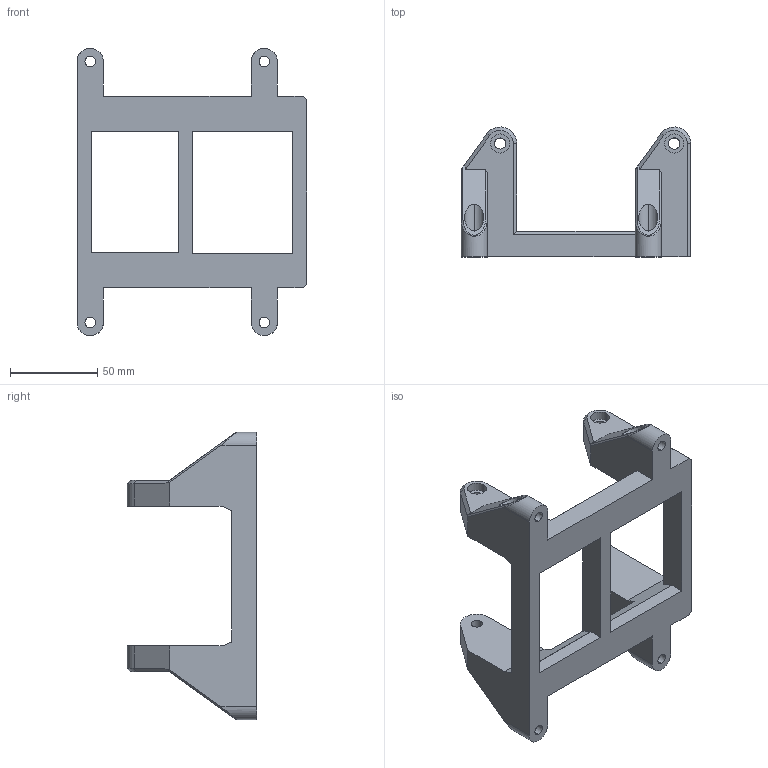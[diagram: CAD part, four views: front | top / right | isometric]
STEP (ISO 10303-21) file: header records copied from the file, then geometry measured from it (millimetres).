
FILE_DESCRIPTION (( 'STEP AP214' ), '1' );
FILE_NAME ('2019_miCube_Camera Mount.STEP', '2019-05-27T07:28:18', ( '' ), ( '' ), 'SwSTEP 2.0', 'SolidWorks 2017', '' );
FILE_SCHEMA (( 'AUTOMOTIVE_DESIGN' ));
Length unit declared in the file: millimetre
Products named in the file (1): 2019_miCube_Camera Mount
Bounding box: 131.9 x 74.48 x 165 mm (x, y, z)
Volume: 237523.9 mm3; surface area: 58249.6 mm2
Topology: 1 solids, 1 shells, 120 faces, 318 edges, 206 vertices
Faces by surface type: plane 70, cylinder 42, cone 4, bspline 4
Entity records: 4888 total; most frequent: CARTESIAN_POINT 1839, ORIENTED_EDGE 636, DIRECTION 600, EDGE_CURVE 318, LINE 218, VECTOR 218, VERTEX_POINT 206, AXIS2_PLACEMENT_3D 191
